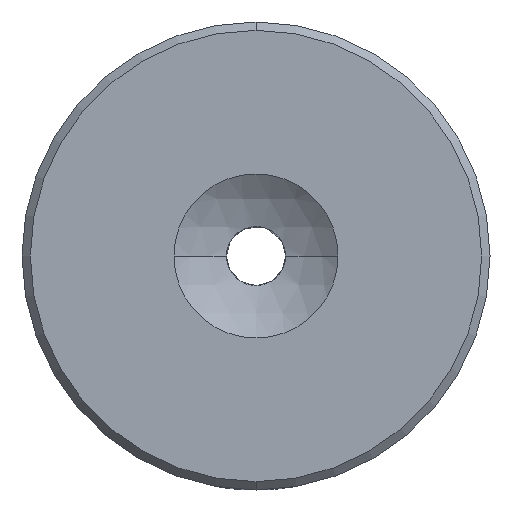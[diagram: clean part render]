
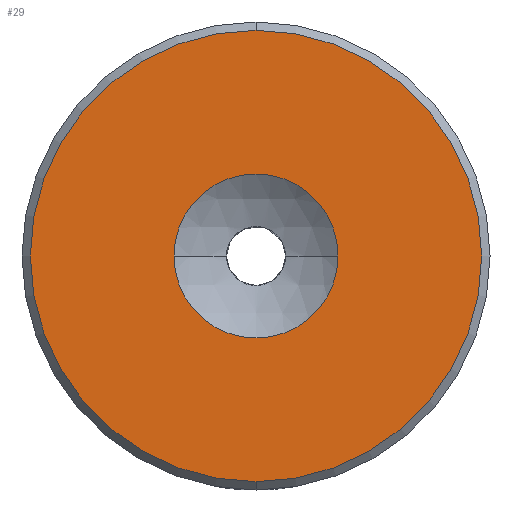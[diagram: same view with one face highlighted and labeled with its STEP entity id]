
A CAD part, front view. The second image highlights one B-rep face of the part: STEP entity #29.
In plain terms, the highlighted planar face has unit normal (0, -1, 0).
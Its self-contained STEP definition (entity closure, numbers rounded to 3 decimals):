
#29 = ADVANCED_FACE ( 'NONE', ( #2971, #2151 ), #1790, .F. ) ;
#39 = CARTESIAN_POINT ( 'NONE',  ( 0., 0., 0. ) ) ;
#215 = VERTEX_POINT ( 'NONE', #3449 ) ;
#235 = DIRECTION ( 'NONE',  ( 0., -1., 0. ) ) ;
#255 = VERTEX_POINT ( 'NONE', #2601 ) ;
#564 = EDGE_LOOP ( 'NONE', ( #3637, #3491 ) ) ;
#1176 = AXIS2_PLACEMENT_3D ( 'NONE', #1851, #2123, #2427 ) ;
#1198 = CARTESIAN_POINT ( 'NONE',  ( 0., 0., 0. ) ) ;
#1259 = DIRECTION ( 'NONE',  ( 0., 0., 1. ) ) ;
#1324 = CIRCLE ( 'NONE', #1176, 4.905 ) ;
#1484 = EDGE_CURVE ( 'NONE', #2059, #255, #1734, .T. ) ;
#1504 = DIRECTION ( 'NONE',  ( 0., 0., 1. ) ) ;
#1553 = EDGE_CURVE ( 'NONE', #255, #2059, #1324, .T. ) ;
#1734 = CIRCLE ( 'NONE', #1901, 4.905 ) ;
#1790 = PLANE ( 'NONE',  #2337 ) ;
#1830 = DIRECTION ( 'NONE',  ( 0., -1., 0. ) ) ;
#1851 = CARTESIAN_POINT ( 'NONE',  ( 0., 0., 0. ) ) ;
#1901 = AXIS2_PLACEMENT_3D ( 'NONE', #2893, #2532, #2838 ) ;
#1982 = ORIENTED_EDGE ( 'NONE', *, *, #3789, .T. ) ;
#2009 = CIRCLE ( 'NONE', #2483, 13.5 ) ;
#2059 = VERTEX_POINT ( 'NONE', #2112 ) ;
#2090 = DIRECTION ( 'NONE',  ( 0., 1., 0. ) ) ;
#2112 = CARTESIAN_POINT ( 'NONE',  ( -4.905, 0., 0. ) ) ;
#2123 = DIRECTION ( 'NONE',  ( 0., -1., 0. ) ) ;
#2151 = FACE_BOUND ( 'NONE', #564, .T. ) ;
#2337 = AXIS2_PLACEMENT_3D ( 'NONE', #1198, #2090, #1504 ) ;
#2427 = DIRECTION ( 'NONE',  ( 0., 0., 1. ) ) ;
#2483 = AXIS2_PLACEMENT_3D ( 'NONE', #2967, #235, #2629 ) ;
#2532 = DIRECTION ( 'NONE',  ( 0., -1., 0. ) ) ;
#2586 = EDGE_CURVE ( 'NONE', #2826, #215, #2598, .T. ) ;
#2598 = CIRCLE ( 'NONE', #3407, 13.5 ) ;
#2601 = CARTESIAN_POINT ( 'NONE',  ( 4.905, 0., 0. ) ) ;
#2629 = DIRECTION ( 'NONE',  ( 0., 0., 1. ) ) ;
#2826 = VERTEX_POINT ( 'NONE', #3382 ) ;
#2838 = DIRECTION ( 'NONE',  ( 0., 0., 1. ) ) ;
#2863 = EDGE_LOOP ( 'NONE', ( #3853, #1982 ) ) ;
#2893 = CARTESIAN_POINT ( 'NONE',  ( 0., 0., 0. ) ) ;
#2967 = CARTESIAN_POINT ( 'NONE',  ( 0., 0., 0. ) ) ;
#2971 = FACE_OUTER_BOUND ( 'NONE', #2863, .T. ) ;
#3382 = CARTESIAN_POINT ( 'NONE',  ( 0., 0., 13.5 ) ) ;
#3407 = AXIS2_PLACEMENT_3D ( 'NONE', #39, #1830, #1259 ) ;
#3449 = CARTESIAN_POINT ( 'NONE',  ( 0., 0., -13.5 ) ) ;
#3491 = ORIENTED_EDGE ( 'NONE', *, *, #1553, .F. ) ;
#3637 = ORIENTED_EDGE ( 'NONE', *, *, #1484, .F. ) ;
#3789 = EDGE_CURVE ( 'NONE', #215, #2826, #2009, .T. ) ;
#3853 = ORIENTED_EDGE ( 'NONE', *, *, #2586, .T. ) ;
